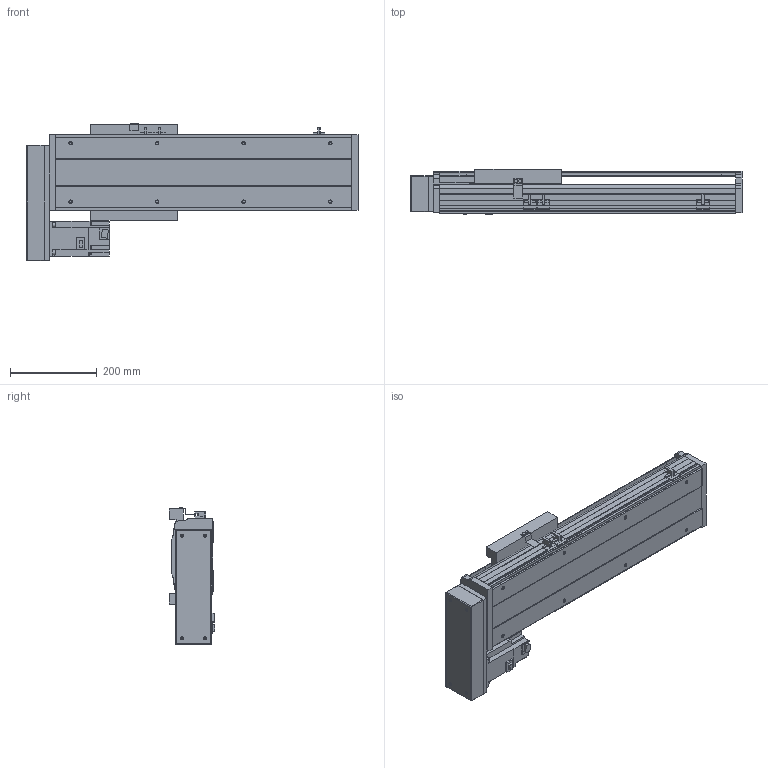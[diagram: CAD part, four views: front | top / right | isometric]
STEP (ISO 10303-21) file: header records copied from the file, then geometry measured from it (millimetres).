
FILE_DESCRIPTION( ( 'STEP AP214' ), '1' );
FILE_NAME( 'x:/temp/worker_6/temp/exporttempdir_5396_267_hY73r/format_0/PSS200-L10-S350-BR-T75-C1-N(0).stp', '2022-06-09T01:16:13', ( 'License CC BY-ND 4.0' ), ( 'CADENAS' ), ' ', 'PARTsolutions', ' ' );
FILE_SCHEMA( ( 'AUTOMOTIVE_DESIGN { 1 0 10303 214 1 1 1 1 }' ) );
Length unit declared in the file: millimetre
Products named in the file (8): PSS200-L10-S350-BR-T75-C1-N(0); _PSS200-S350-BR-C1-N_body; _PSS200-N_Q; _PSS200-BR-C1-N_sl; _PSS200-N_sensor; _PSS200BR-N_h; _T75-p1; _PSS200-S350-BR-N_S
Assembly tree (9 placements, depth 2):
  PSS200-L10-S350-BR-T75-C1-N(0)
    _PSS200-S350-BR-C1-N_body
    _PSS200-N_Q
    _PSS200-BR-C1-N_sl
    _PSS200-N_sensor  x3
    _PSS200BR-N_h
    _T75-p1
    _PSS200-S350-BR-N_S
Bounding box: 766.85 x 105.3 x 317.86 mm (x, y, z)
Volume: 6524612.1 mm3; surface area: 1331909 mm2
Topology: 9 solids, 9 shells, 596 faces, 1585 edges, 1046 vertices
Faces by surface type: plane 466, cylinder 110, cone 16, sphere 4
Full cylindrical faces by diameter (mm): 4 x2, 4.5 x4, 6 x7, 6.647 x12, 7.4 x4, 8 x8, 10 x6, 25 x1, 40 x1, 67 x1
Entity records: 20790 total; most frequent: CARTESIAN_POINT 2843, DIRECTION 2732, ORIENTED_EDGE 2714, EDGE_CURVE 1357, LINE 1090, VECTOR 1090, VERTEX_POINT 932, AXIS2_PLACEMENT_3D 821
